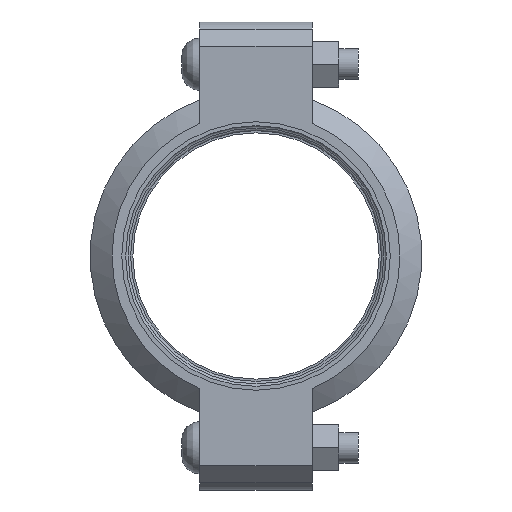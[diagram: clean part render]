
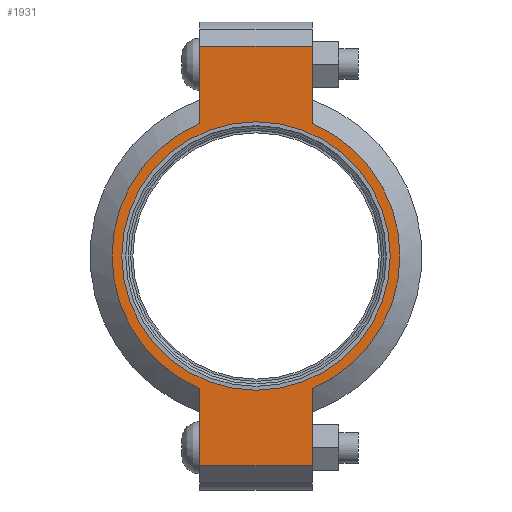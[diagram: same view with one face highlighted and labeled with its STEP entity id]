
A CAD part, left-side view. The second image highlights one B-rep face of the part: STEP entity #1931.
In plain terms, the highlighted planar face has unit normal (-1, 0, 0) as drawn and (0, 0, 1) by its records, which use the part's own axes.
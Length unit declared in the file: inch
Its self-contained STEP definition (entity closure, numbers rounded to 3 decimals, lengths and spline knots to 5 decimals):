
#120=LINE('',#3423,#217);
#128=LINE('',#3459,#225);
#135=LINE('',#3480,#232);
#144=LINE('',#3512,#241);
#145=LINE('',#3516,#242);
#146=LINE('',#3518,#243);
#217=VECTOR('',#2795,0.3937);
#225=VECTOR('',#2811,0.3937);
#232=VECTOR('',#2830,0.3937);
#241=VECTOR('',#2855,0.3937);
#242=VECTOR('',#2860,0.3937);
#243=VECTOR('',#2861,0.3937);
#299=FACE_BOUND('',#549,.T.);
#343=PLANE('',#2270);
#431=FACE_OUTER_BOUND('',#548,.T.);
#548=EDGE_LOOP('',(#1652,#1653,#1654,#1655,#1656,#1657,#1658,#1659));
#549=EDGE_LOOP('',(#1660));
#721=CIRCLE('',#2271,2.95);
#722=CIRCLE('',#2272,2.95);
#723=CIRCLE('',#2273,2.75);
#885=VERTEX_POINT('',#3420);
#886=VERTEX_POINT('',#3422);
#897=VERTEX_POINT('',#3454);
#898=VERTEX_POINT('',#3458);
#905=VERTEX_POINT('',#3477);
#906=VERTEX_POINT('',#3479);
#916=VERTEX_POINT('',#3515);
#917=VERTEX_POINT('',#3517);
#918=VERTEX_POINT('',#3520);
#1130=EDGE_CURVE('',#886,#885,#120,.T.);
#1144=EDGE_CURVE('',#898,#897,#128,.T.);
#1154=EDGE_CURVE('',#906,#905,#135,.T.);
#1169=EDGE_CURVE('',#898,#885,#144,.T.);
#1170=EDGE_CURVE('',#897,#906,#721,.T.);
#1171=EDGE_CURVE('',#916,#905,#145,.T.);
#1172=EDGE_CURVE('',#916,#917,#146,.T.);
#1173=EDGE_CURVE('',#917,#886,#722,.T.);
#1174=EDGE_CURVE('',#918,#918,#723,.T.);
#1652=ORIENTED_EDGE('',*,*,#1169,.F.);
#1653=ORIENTED_EDGE('',*,*,#1144,.T.);
#1654=ORIENTED_EDGE('',*,*,#1170,.T.);
#1655=ORIENTED_EDGE('',*,*,#1154,.T.);
#1656=ORIENTED_EDGE('',*,*,#1171,.F.);
#1657=ORIENTED_EDGE('',*,*,#1172,.T.);
#1658=ORIENTED_EDGE('',*,*,#1173,.T.);
#1659=ORIENTED_EDGE('',*,*,#1130,.T.);
#1660=ORIENTED_EDGE('',*,*,#1174,.T.);
#1931=ADVANCED_FACE('',(#431,#299),#343,.T.);
#2270=AXIS2_PLACEMENT_3D('',#3513,#2856,#2857);
#2271=AXIS2_PLACEMENT_3D('',#3514,#2858,#2859);
#2272=AXIS2_PLACEMENT_3D('',#3519,#2862,#2863);
#2273=AXIS2_PLACEMENT_3D('',#3521,#2864,#2865);
#2795=DIRECTION('',(1.,0.,0.));
#2811=DIRECTION('',(-1.,0.,0.));
#2830=DIRECTION('',(-1.,0.,0.));
#2855=DIRECTION('',(0.,-1.,0.));
#2856=DIRECTION('center_axis',(0.,0.,1.));
#2857=DIRECTION('ref_axis',(-1.,0.,0.));
#2858=DIRECTION('center_axis',(0.,0.,1.));
#2859=DIRECTION('ref_axis',(1.,0.,0.));
#2860=DIRECTION('',(0.,1.,0.));
#2861=DIRECTION('',(1.,0.,0.));
#2862=DIRECTION('center_axis',(0.,0.,1.));
#2863=DIRECTION('ref_axis',(1.,0.,0.));
#2864=DIRECTION('center_axis',(0.,0.,-1.));
#2865=DIRECTION('ref_axis',(1.,0.,0.));
#3420=CARTESIAN_POINT('',(4.295,-1.15,1.065));
#3422=CARTESIAN_POINT('',(2.71662,-1.15,1.065));
#3423=CARTESIAN_POINT('',(4.795,-1.15,1.065));
#3454=CARTESIAN_POINT('',(2.71662,1.15,1.065));
#3458=CARTESIAN_POINT('',(4.295,1.15,1.065));
#3459=CARTESIAN_POINT('',(-4.795,1.15,1.065));
#3477=CARTESIAN_POINT('',(-4.295,1.15,1.065));
#3479=CARTESIAN_POINT('',(-2.71662,1.15,1.065));
#3480=CARTESIAN_POINT('',(-4.795,1.15,1.065));
#3512=CARTESIAN_POINT('',(4.295,-0.575,1.065));
#3513=CARTESIAN_POINT('Origin',(0.,0.,
1.065));
#3514=CARTESIAN_POINT('Origin',(0.,0.,1.065));
#3515=CARTESIAN_POINT('',(-4.295,-1.15,1.065));
#3516=CARTESIAN_POINT('',(-4.295,0.575,1.065));
#3517=CARTESIAN_POINT('',(-2.71662,-1.15,1.065));
#3518=CARTESIAN_POINT('',(4.795,-1.15,1.065));
#3519=CARTESIAN_POINT('Origin',(0.,0.,1.065));
#3520=CARTESIAN_POINT('',(-2.75,0.,1.065));
#3521=CARTESIAN_POINT('Origin',(0.,0.,1.065));
